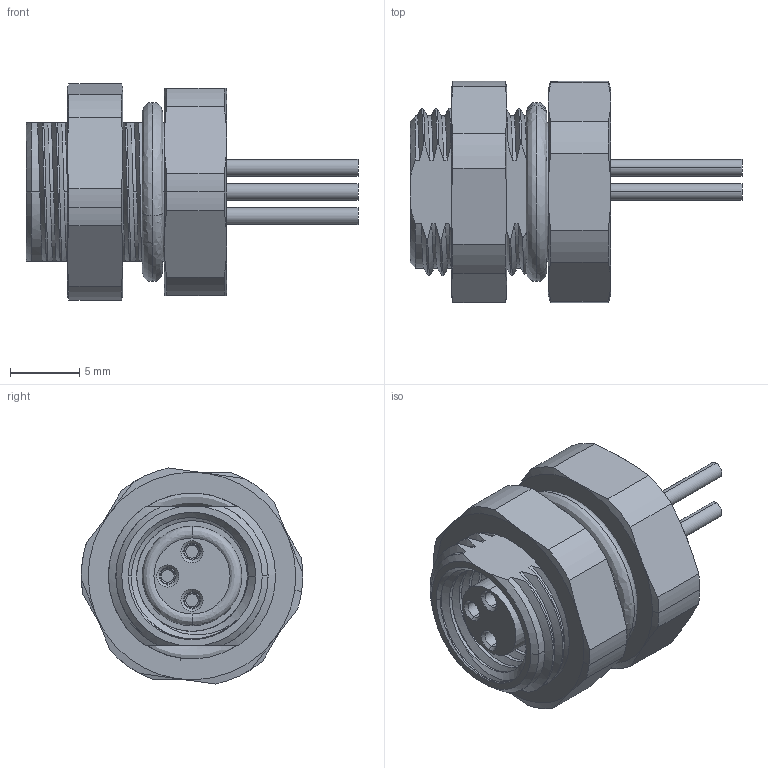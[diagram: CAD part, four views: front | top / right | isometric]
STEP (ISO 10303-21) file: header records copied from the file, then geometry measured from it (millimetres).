
FILE_DESCRIPTION (( 'STEP AP203' ), '1' );
FILE_NAME ('63SA01-XXX.STEP', '2023-10-26T05:25:39', ( 'ADMIN' ), ( '' ), 'SwSTEP 2.0', 'SolidWorks 2016', '' );
FILE_SCHEMA (( 'CONFIG_CONTROL_DESIGN' ));
Length unit declared in the file: millimetre
Products named in the file (1): 63SA01-XXX
Bounding box: 24 x 16 x 15.63 mm (x, y, z)
Volume: 1893.4 mm3; surface area: 2716 mm2
Topology: 2 solids, 13 shells, 400 faces, 1012 edges, 637 vertices
Faces by surface type: cylinder 140, plane 113, cone 86, bspline 61
Entity records: 28281 total; most frequent: CARTESIAN_POINT 19431, ORIENTED_EDGE 2024, DIRECTION 1677, EDGE_CURVE 1012, AXIS2_PLACEMENT_3D 696, VERTEX_POINT 637, EDGE_LOOP 433, ADVANCED_FACE 400
